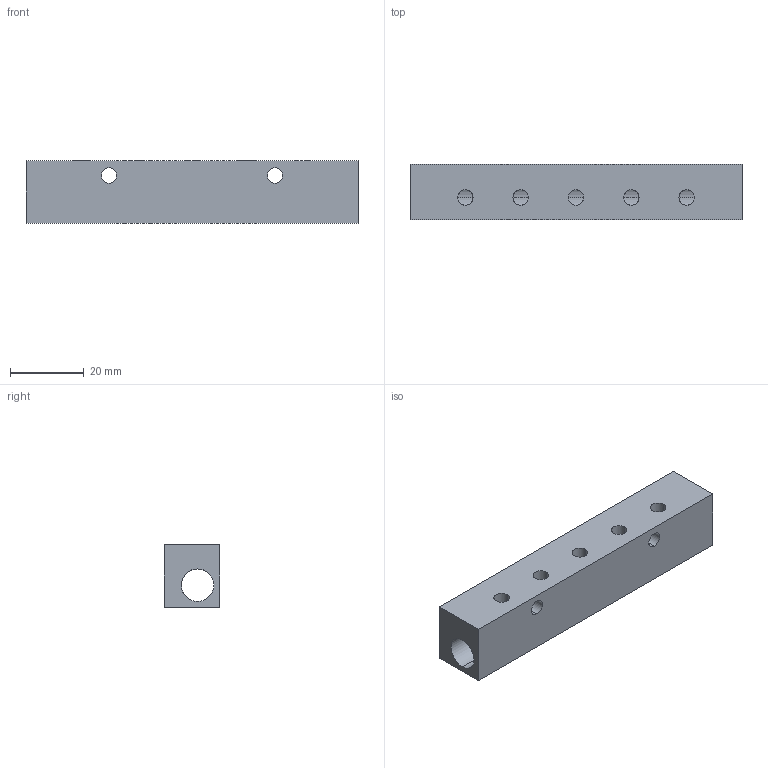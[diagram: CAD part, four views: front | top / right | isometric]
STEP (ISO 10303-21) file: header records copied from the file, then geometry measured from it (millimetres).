
FILE_DESCRIPTION (( 'STEP AP214' ), '1' );
FILE_NAME ('SMB-10M5-02G18.STEP', '2019-11-06T03:04:47', ( '微软用户' ), ( '微软中国' ), 'SwSTEP 2.0', 'SolidWorks 2016', '' );
FILE_SCHEMA (( 'AUTOMOTIVE_DESIGN' ));
Length unit declared in the file: millimetre
Products named in the file (1): SMB-10M5-02G18
Bounding box: 90 x 15 x 17 mm (x, y, z)
Volume: 16266.7 mm3; surface area: 9469 mm2
Topology: 1 solids, 1 shells, 32 faces, 95 edges, 60 vertices
Faces by surface type: cylinder 26, plane 6
Entity records: 1983 total; most frequent: CARTESIAN_POINT 768, ORIENTED_EDGE 190, DIRECTION 173, EDGE_CURVE 95, AXIS2_PLACEMENT_3D 65, VERTEX_POINT 60, EDGE_LOOP 53, LINE 43
